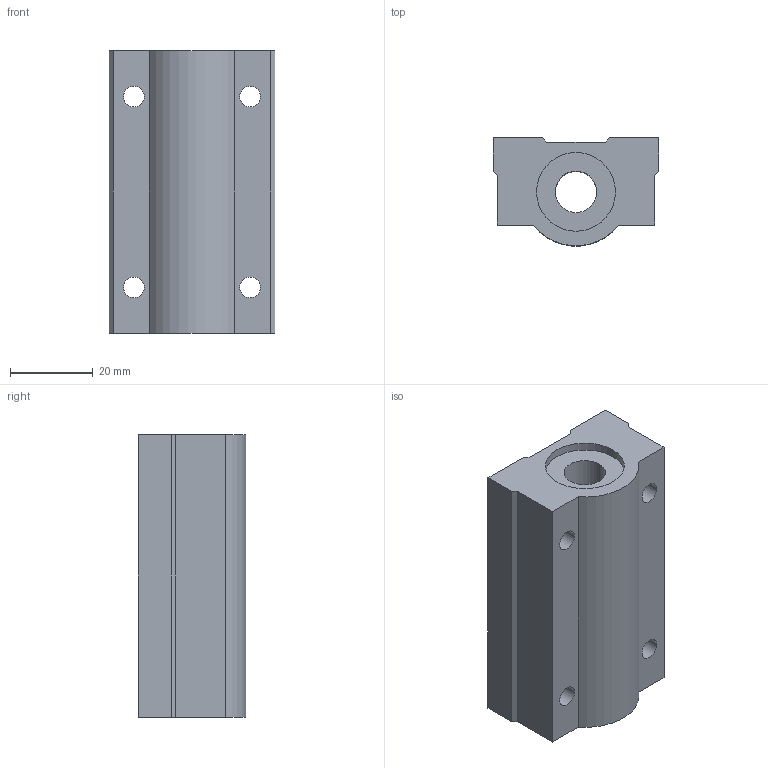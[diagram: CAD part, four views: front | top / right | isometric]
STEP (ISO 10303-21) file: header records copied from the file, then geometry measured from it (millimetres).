
FILE_DESCRIPTION((''),'2;1');
FILE_NAME('C:\Documents and Settings\ｿﾀﾀ蠑ｷ1\ｹﾙﾅﾁ ﾈｭｸ饅\ｺﾎﾇｰﾆﾄﾀﾏ\ﾁｦﾇｰ\SC__WUUN\SC10WUUN.stp','2005-06-22T11:00:38',('ｿﾀﾀ蠑ｷ1'),(''),'Autodesk Inventor 9','Autodesk Inventor 9','');
FILE_SCHEMA(('AUTOMOTIVE_DESIGN { 1 0 10303 214 1 1 1 1 }'));
Length unit declared in the file: millimetre
Products named in the file (1): SC__UUN
Bounding box: 40 x 25.96 x 68 mm (x, y, z)
Volume: 51449.7 mm3; surface area: 13481.7 mm2
Topology: 1 solids, 1 shells, 32 faces, 84 edges, 56 vertices
Faces by surface type: plane 17, bspline 8, cylinder 7
Entity records: 1145 total; most frequent: CARTESIAN_POINT 309, ORIENTED_EDGE 168, DIRECTION 164, EDGE_CURVE 84, VERTEX_POINT 56, AXIS2_PLACEMENT_3D 55, VECTOR 54, LINE 54
